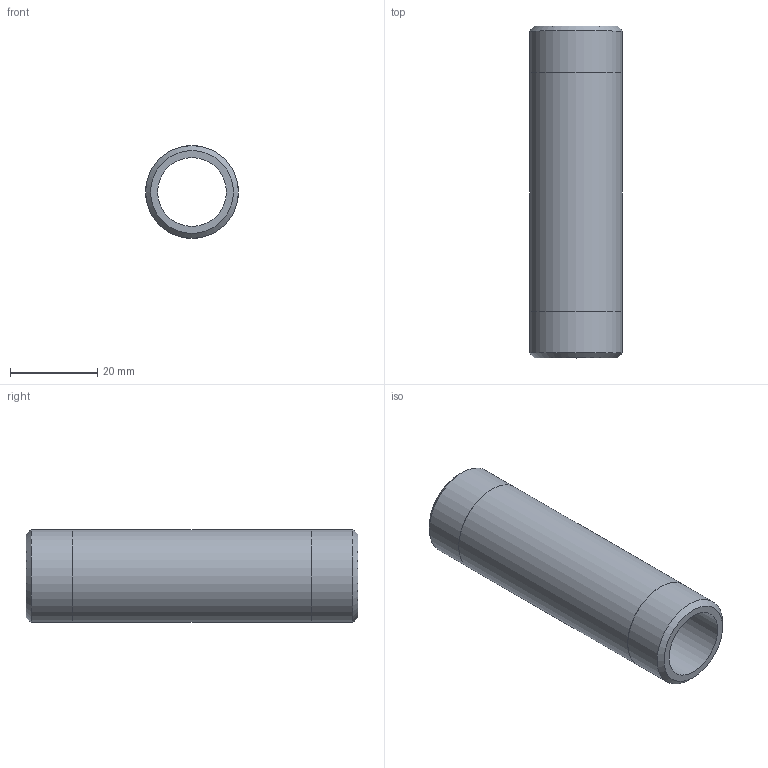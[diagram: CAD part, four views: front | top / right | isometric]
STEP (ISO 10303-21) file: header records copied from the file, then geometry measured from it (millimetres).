
FILE_DESCRIPTION(/* description */ (''),/* implementation_level */ '2;1');
FILE_NAME(/* name */ 'C:/Users/drich/Desktop/BPN12-3 v1.step',/* time_stamp */ '2020-01-03T14:33:04-06:00',/* author */ (''),/* organization */ (''),/* preprocessor_version */ 'ST-DEVELOPER v18',/* originating_system */ 'Autodesk Translation Framework v8.12.0.6',/* authorisation */ '');
FILE_SCHEMA (('AUTOMOTIVE_DESIGN { 1 0 10303 214 3 1 1 }'));
Length unit declared in the file: inch
Products named in the file (1): BPN12-3
Bounding box: 21.34 x 76.2 x 21.34 mm (x, y, z)
Volume: 12185.5 mm3; surface area: 9116.3 mm2
Topology: 1 solids, 1 shells, 10 faces, 24 edges, 18 vertices
Faces by surface type: cylinder 4, plane 4, cone 2
Full cylindrical faces by diameter (mm): 15.799 x1, 21.285 x2, 21.336 x1
Entity records: 360 total; most frequent: DIRECTION 64, CARTESIAN_POINT 53, ORIENTED_EDGE 48, AXIS2_PLACEMENT_3D 29, EDGE_CURVE 24, CIRCLE 18, VERTEX_POINT 18, EDGE_LOOP 14
